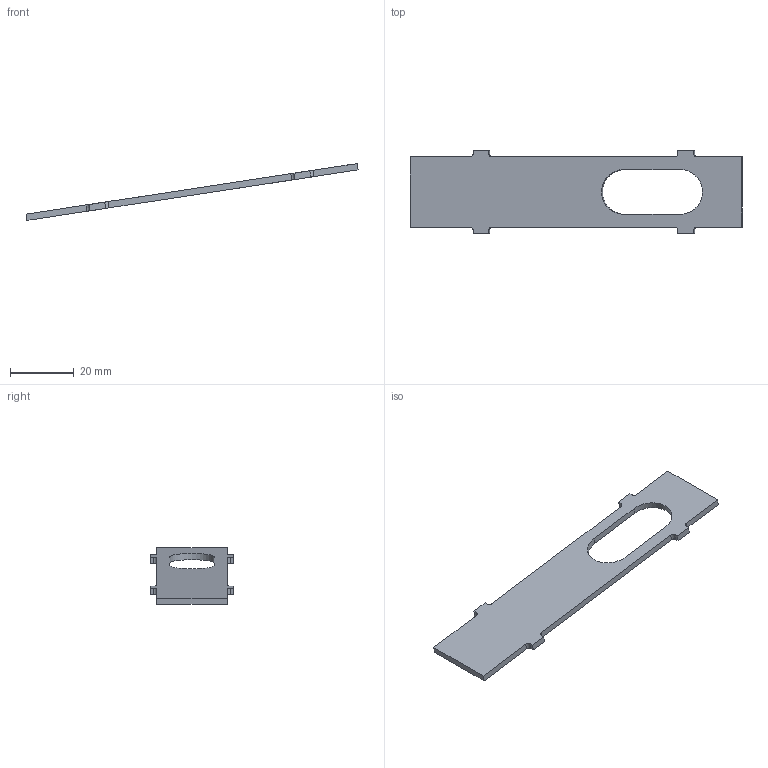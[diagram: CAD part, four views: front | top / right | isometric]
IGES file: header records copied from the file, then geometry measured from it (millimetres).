
Start section: START RECORD GO HERE.
Global section: file name: FR_10001_11 (Frame Brake).igs; native system: IBM CATIA IGES - CATIA Version 5 Release 19 ; preprocessor: CATIA Version 5 Release 19 ; author: jacqu; organization: ASUS-TUF-JACQUE; date: 20200226.091924; units: millimetre
Bounding box: 104.1 x 26 x 17.82 mm (x, y, z)
Surface area: 4584.7 mm2 (no closed solid volume)
Topology: 0 solids, 0 shells, 34 faces, 192 edges, 192 vertices
Faces by surface type: plane 24, revolution 10
